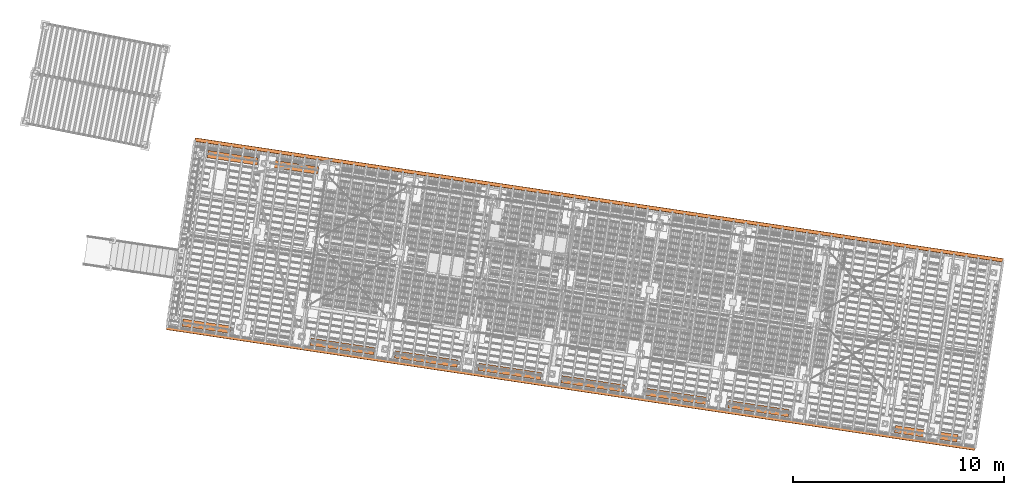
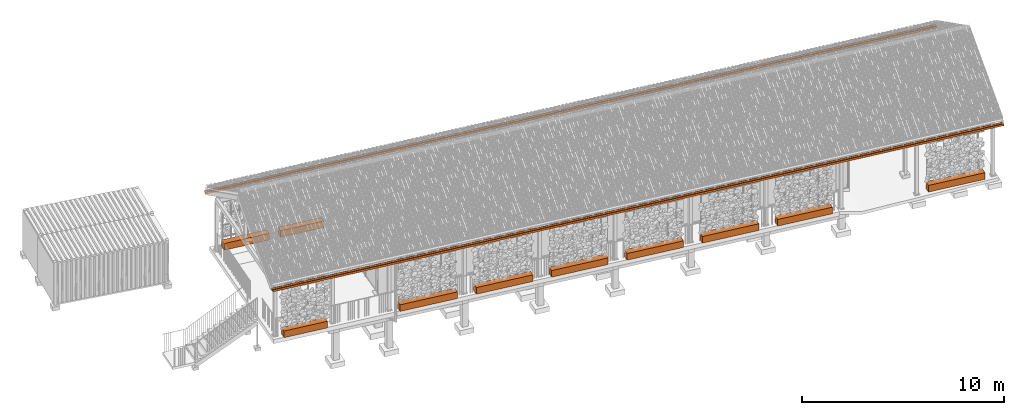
# One storey, part 131 of 131: 12 proxies, 1 element without a shape of its own.
"""IFC4 building model written with IfcOpenShell, lengths in metres."""

from ifc_helpers import new_model, si_unit, direction, frame, origin_with_axes, place, context, subcontext, project, spatial, polyline, outline, extrude, material, element, aggregate, save


model = new_model("IFC4")

# Units and contexts
model_context = context("Model", 3, precision=1e-05, world=origin_with_axes(), true_north=direction((0.0, 1.0)))
body_context = subcontext(model_context, "Body", "Model", "MODEL_VIEW")
ifc_project = project(units=[si_unit("VOLUMEUNIT", "CUBIC_METRE"), si_unit("LENGTHUNIT", "METRE"), si_unit("AREAUNIT", "SQUARE_METRE")], contexts=[model_context])

# Site, building, storey
site_placement = place(None, origin_with_axes())
site = spatial("IfcSite", under=ifc_project, at=site_placement, Name="Lares · Rua das Mercês · artigo 4771")
building_placement = place(site_placement, frame((15.0, 9.7, 14.65), z_axis=(0.0, 0.0, 1.0), x_axis=(0.989015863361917, -0.147809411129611, 0.0)))
building = spatial("IfcBuilding", under=site, at=building_placement, Name="Casa Sobreposta")
storey_placement = place(building_placement, origin_with_axes())
storey = spatial("IfcBuildingStorey", under=building, at=storey_placement, Name="00 · Habitação e estacionamento", Elevation=14.65)

# Proxies
ifc_material_1 = material(Name="Aço galvanizado / Stahl verzinkt", Category="steel")
proxy_1_placement = place(storey_placement, frame((-6.4, 0.0, 0.0), z_axis=(0.999998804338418, 0.0, 0.00154638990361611), x_axis=(0.0, 1.0, 0.0)))
element("IfcBuildingElementProxy", 1, at=proxy_1_placement, inside=storey, material=ifc_material_1, Name="Cobertura · caleira pluvial para cisterna", ObjectType="Cobertura · caleira pluvial para cisterna", PredefinedType="USERDEFINED", context=body_context, shape_type="SweptSolid", body=[
    extrude(outline(polyline([(-2.06, 3.2), (-2.06, 3.08), (-1.88, 3.08), (-1.88, 3.2), (-1.888, 3.2), (-1.888, 3.088), (-2.052, 3.088), (-2.052, 3.2), (-2.06, 3.2)])), origin_with_axes(), (0.0, 0.0, 1.0), 38.8),
])
proxy_2_placement = place(storey_placement, frame((-6.4, 0.0, 0.0), z_axis=(0.999998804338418, 0.0, 0.00154638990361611), x_axis=(0.0, 1.0, 0.0)))
element("IfcBuildingElementProxy", 2, at=proxy_2_placement, inside=storey, material=ifc_material_1, Name="Cobertura · caleira pluvial para cisterna", ObjectType="Cobertura · caleira pluvial para cisterna", PredefinedType="USERDEFINED", context=body_context, shape_type="SweptSolid", body=[
    extrude(outline(polyline([(6.98, 3.2), (6.98, 3.08), (7.16, 3.08), (7.16, 3.2), (7.152, 3.2), (7.152, 3.088), (6.988, 3.088), (6.988, 3.2), (6.98, 3.2)])), origin_with_axes(), (0.0, 0.0, 1.0), 38.8),
])

# Assembly, proxies
assembly_placement = place(storey_placement, origin_with_axes())
assembly = element("IfcElementAssembly", 3, at=assembly_placement, inside=storey, Name="Fachada sul e pátio · estrutura e trepadeiras", ObjectType="LIVING_SHADE_TRELLIS", PredefinedType="USERDEFINED")
ifc_material_2 = material(Name="Betão armado / Stahlbeton", Category="concrete")
proxy_3_placement = place(assembly_placement, frame((0.0, 0.0, -0.04), z_axis=(0.0, 0.0, 1.0), x_axis=(1.0, 0.0, 0.0)))
proxy_3 = element("IfcBuildingElementProxy", 4, at=proxy_3_placement, material=ifc_material_2, Name="Trepadeiras · floreira", ObjectType="Trepadeiras · floreira", PredefinedType="USERDEFINED", context=body_context, shape_type="SweptSolid", body=[
    extrude(outline(polyline([(-3.4, -1.785), (-3.4, -1.435), (-5.7, -1.435), (-5.7, -1.785), (-3.4, -1.785)])), origin_with_axes(), (0.0, 0.0, 1.0), 0.4),
])
proxy_4_placement = place(assembly_placement, frame((0.0, 0.0, -0.04), z_axis=(0.0, 0.0, 1.0), x_axis=(1.0, 0.0, 0.0)))
proxy_4 = element("IfcBuildingElementProxy", 5, at=proxy_4_placement, material=ifc_material_2, Name="Trepadeiras · floreira", ObjectType="Trepadeiras · floreira", PredefinedType="USERDEFINED", context=body_context, shape_type="SweptSolid", body=[
    extrude(outline(polyline([(3.5, -1.785), (3.5, -1.435), (0.45, -1.435), (0.45, -1.785), (3.5, -1.785)])), origin_with_axes(), (0.0, 0.0, 1.0), 0.4),
])
proxy_5_placement = place(assembly_placement, frame((0.0, 0.0, -0.04), z_axis=(0.0, 0.0, 1.0), x_axis=(1.0, 0.0, 0.0)))
proxy_5 = element("IfcBuildingElementProxy", 6, at=proxy_5_placement, material=ifc_material_2, Name="Trepadeiras · floreira", ObjectType="Trepadeiras · floreira", PredefinedType="USERDEFINED", context=body_context, shape_type="SweptSolid", body=[
    extrude(outline(polyline([(7.5, -1.785), (7.5, -1.435), (4.5, -1.435), (4.5, -1.785), (7.5, -1.785)])), origin_with_axes(), (0.0, 0.0, 1.0), 0.4),
])
proxy_6_placement = place(assembly_placement, frame((0.0, 0.0, -0.04), z_axis=(0.0, 0.0, 1.0), x_axis=(1.0, 0.0, 0.0)))
proxy_6 = element("IfcBuildingElementProxy", 7, at=proxy_6_placement, material=ifc_material_2, Name="Trepadeiras · floreira", ObjectType="Trepadeiras · floreira", PredefinedType="USERDEFINED", context=body_context, shape_type="SweptSolid", body=[
    extrude(outline(polyline([(11.5, -1.785), (11.5, -1.435), (8.5, -1.435), (8.5, -1.785), (11.5, -1.785)])), origin_with_axes(), (0.0, 0.0, 1.0), 0.4),
])
proxy_7_placement = place(assembly_placement, frame((0.0, 0.0, -0.04), z_axis=(0.0, 0.0, 1.0), x_axis=(1.0, 0.0, 0.0)))
proxy_7 = element("IfcBuildingElementProxy", 8, at=proxy_7_placement, material=ifc_material_2, Name="Trepadeiras · floreira", ObjectType="Trepadeiras · floreira", PredefinedType="USERDEFINED", context=body_context, shape_type="SweptSolid", body=[
    extrude(outline(polyline([(15.5, -1.785), (15.5, -1.435), (12.5, -1.435), (12.5, -1.785), (15.5, -1.785)])), origin_with_axes(), (0.0, 0.0, 1.0), 0.4),
])
proxy_8_placement = place(assembly_placement, frame((0.0, 0.0, -0.04), z_axis=(0.0, 0.0, 1.0), x_axis=(1.0, 0.0, 0.0)))
proxy_8 = element("IfcBuildingElementProxy", 9, at=proxy_8_placement, material=ifc_material_2, Name="Trepadeiras · floreira", ObjectType="Trepadeiras · floreira", PredefinedType="USERDEFINED", context=body_context, shape_type="SweptSolid", body=[
    extrude(outline(polyline([(19.5, -1.785), (19.5, -1.435), (16.5, -1.435), (16.5, -1.785), (19.5, -1.785)])), origin_with_axes(), (0.0, 0.0, 1.0), 0.4),
])
proxy_9_placement = place(assembly_placement, frame((0.0, 0.0, -0.04), z_axis=(0.0, 0.0, 1.0), x_axis=(1.0, 0.0, 0.0)))
proxy_9 = element("IfcBuildingElementProxy", 10, at=proxy_9_placement, material=ifc_material_2, Name="Trepadeiras · floreira", ObjectType="Trepadeiras · floreira", PredefinedType="USERDEFINED", context=body_context, shape_type="SweptSolid", body=[
    extrude(outline(polyline([(23.4, -1.785), (23.4, -1.435), (20.5, -1.435), (20.5, -1.785), (23.4, -1.785)])), origin_with_axes(), (0.0, 0.0, 1.0), 0.4),
])
proxy_10_placement = place(assembly_placement, frame((0.0, 0.0, -0.04), z_axis=(0.0, 0.0, 1.0), x_axis=(1.0, 0.0, 0.0)))
proxy_10 = element("IfcBuildingElementProxy", 11, at=proxy_10_placement, material=ifc_material_2, Name="Trepadeiras · floreira", ObjectType="Trepadeiras · floreira", PredefinedType="USERDEFINED", context=body_context, shape_type="SweptSolid", body=[
    extrude(outline(polyline([(31.5, -1.785), (31.5, -1.435), (28.5, -1.435), (28.5, -1.785), (31.5, -1.785)])), origin_with_axes(), (0.0, 0.0, 1.0), 0.4),
])
proxy_11_placement = place(assembly_placement, frame((0.0, 0.0, -0.04), z_axis=(0.0, 0.0, 1.0), x_axis=(1.0, 0.0, 0.0)))
proxy_11 = element("IfcBuildingElementProxy", 12, at=proxy_11_placement, material=ifc_material_2, Name="Trepadeiras · floreira", ObjectType="Trepadeiras · floreira", PredefinedType="USERDEFINED", context=body_context, shape_type="SweptSolid", body=[
    extrude(outline(polyline([(-3.3, 6.305), (-3.3, 6.655), (-5.7, 6.655), (-5.7, 6.305), (-3.3, 6.305)])), origin_with_axes(), (0.0, 0.0, 1.0), 0.4),
])
proxy_12_placement = place(assembly_placement, frame((0.0, 0.0, -0.04), z_axis=(0.0, 0.0, 1.0), x_axis=(1.0, 0.0, 0.0)))
proxy_12 = element("IfcBuildingElementProxy", 13, at=proxy_12_placement, material=ifc_material_2, Name="Trepadeiras · floreira", ObjectType="Trepadeiras · floreira", PredefinedType="USERDEFINED", context=body_context, shape_type="SweptSolid", body=[
    extrude(outline(polyline([(-0.4, 6.305), (-0.4, 6.655), (-2.7, 6.655), (-2.7, 6.305), (-0.4, 6.305)])), origin_with_axes(), (0.0, 0.0, 1.0), 0.4),
])
aggregate(assembly, [proxy_3, proxy_4, proxy_5, proxy_6, proxy_7, proxy_8, proxy_9, proxy_10, proxy_11, proxy_12])

save(model, "model.ifc")
